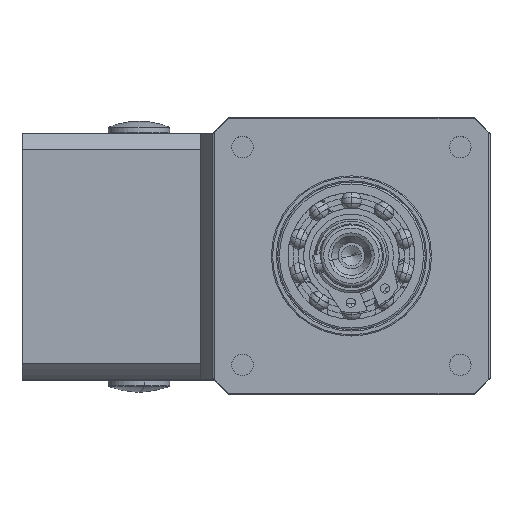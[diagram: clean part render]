
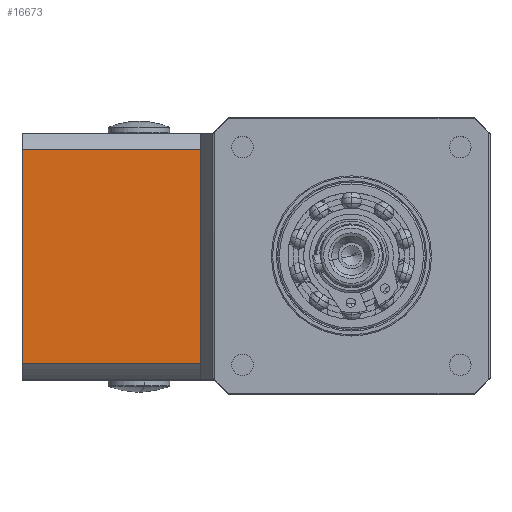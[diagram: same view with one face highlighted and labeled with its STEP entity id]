
A CAD part, top view. The second image highlights one B-rep face of the part: STEP entity #16673.
In plain terms, the highlighted planar face has unit normal (0, 0, 1).
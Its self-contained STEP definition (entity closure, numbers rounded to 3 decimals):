
#2556 = CARTESIAN_POINT ( 'NONE',  ( -58.31, -6.138, -12.25 ) ) ;
#7027 = DIRECTION ( 'NONE',  ( -1., 0., 0. ) ) ;
#7136 = EDGE_CURVE ( 'NONE', #38430, #25112, #33092, .T. ) ;
#7205 = EDGE_CURVE ( 'NONE', #28589, #29257, #26895, .T. ) ;
#11391 = ORIENTED_EDGE ( 'NONE', *, *, #7136, .F. ) ;
#11444 = EDGE_CURVE ( 'NONE', #29257, #25112, #27909, .T. ) ;
#12203 = CARTESIAN_POINT ( 'NONE',  ( -29.31, 31.247, -12.25 ) ) ;
#16673 = ADVANCED_FACE ( 'NONE', ( #24998 ), #45529, .F. ) ;
#17742 = ORIENTED_EDGE ( 'NONE', *, *, #34906, .F. ) ;
#19032 = AXIS2_PLACEMENT_3D ( 'NONE', #2556, #30050, #7027 ) ;
#19294 = DIRECTION ( 'NONE',  ( -1., 0., 0. ) ) ;
#22221 = DIRECTION ( 'NONE',  ( 0., 1., 0. ) ) ;
#24998 = FACE_OUTER_BOUND ( 'NONE', #49990, .T. ) ;
#25112 = VERTEX_POINT ( 'NONE', #35113 ) ;
#26895 = LINE ( 'NONE', #50400, #38594 ) ;
#27909 = LINE ( 'NONE', #48054, #38963 ) ;
#28589 = VERTEX_POINT ( 'NONE', #34596 ) ;
#29257 = VERTEX_POINT ( 'NONE', #12203 ) ;
#30050 = DIRECTION ( 'NONE',  ( 0., 0., -1. ) ) ;
#33092 = LINE ( 'NONE', #42194, #38009 ) ;
#34290 = ORIENTED_EDGE ( 'NONE', *, *, #7205, .T. ) ;
#34596 = CARTESIAN_POINT ( 'NONE',  ( -29.31, -3.523, -12.25 ) ) ;
#34906 = EDGE_CURVE ( 'NONE', #28589, #38430, #35935, .T. ) ;
#35113 = CARTESIAN_POINT ( 'NONE',  ( -58.31, 31.247, -12.25 ) ) ;
#35289 = VECTOR ( 'NONE', #19294, 1000. ) ;
#35935 = LINE ( 'NONE', #42807, #35289 ) ;
#36037 = DIRECTION ( 'NONE',  ( -1., 0., 0. ) ) ;
#38009 = VECTOR ( 'NONE', #22221, 1000. ) ;
#38430 = VERTEX_POINT ( 'NONE', #39746 ) ;
#38594 = VECTOR ( 'NONE', #50231, 1000. ) ;
#38963 = VECTOR ( 'NONE', #36037, 1000. ) ;
#39746 = CARTESIAN_POINT ( 'NONE',  ( -58.31, -3.523, -12.25 ) ) ;
#42194 = CARTESIAN_POINT ( 'NONE',  ( -58.31, -6.138, -12.25 ) ) ;
#42807 = CARTESIAN_POINT ( 'NONE',  ( -29.31, -3.523, -12.25 ) ) ;
#45529 = PLANE ( 'NONE',  #19032 ) ;
#48054 = CARTESIAN_POINT ( 'NONE',  ( -29.31, 31.247, -12.25 ) ) ;
#48866 = ORIENTED_EDGE ( 'NONE', *, *, #11444, .T. ) ;
#49990 = EDGE_LOOP ( 'NONE', ( #17742, #34290, #48866, #11391 ) ) ;
#50231 = DIRECTION ( 'NONE',  ( 0., 1., 0. ) ) ;
#50400 = CARTESIAN_POINT ( 'NONE',  ( -29.31, -6.138, -12.25 ) ) ;
